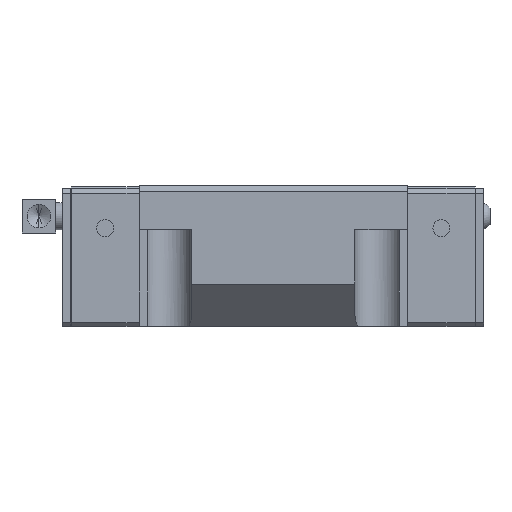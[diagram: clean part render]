
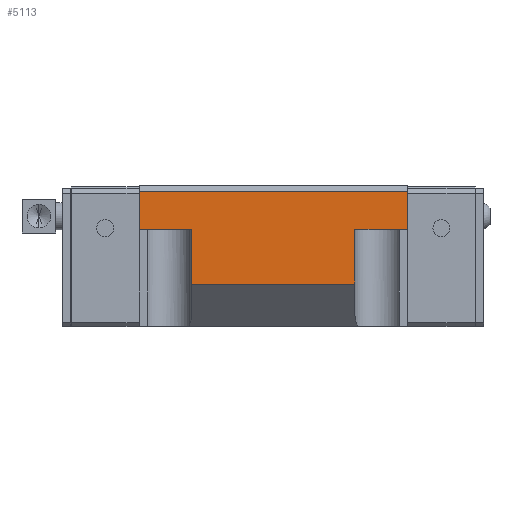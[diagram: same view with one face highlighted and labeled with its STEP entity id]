
A CAD part, top view. The second image highlights one B-rep face of the part: STEP entity #5113.
In plain terms, the highlighted planar face has unit normal (0, 0, 1).
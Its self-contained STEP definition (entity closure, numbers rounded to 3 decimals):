
#432 = VECTOR ( 'NONE', #3984, 1000. ) ;
#473 = CARTESIAN_POINT ( 'NONE',  ( 39.5, 4.8, 50. ) ) ;
#533 = VERTEX_POINT ( 'NONE', #3729 ) ;
#608 = LINE ( 'NONE', #3218, #8230 ) ;
#676 = ORIENTED_EDGE ( 'NONE', *, *, #4894, .F. ) ;
#956 = EDGE_CURVE ( 'NONE', #533, #7142, #3800, .T. ) ;
#1147 = VECTOR ( 'NONE', #5197, 1000. ) ;
#1440 = CARTESIAN_POINT ( 'NONE',  ( -39.5, 4.8, 50. ) ) ;
#1600 = CARTESIAN_POINT ( 'NONE',  ( -39.5, 16., 50. ) ) ;
#1770 = CARTESIAN_POINT ( 'NONE',  ( 24., -11.28, 50. ) ) ;
#1794 = DIRECTION ( 'NONE',  ( 0., -1., 0. ) ) ;
#1896 = VECTOR ( 'NONE', #6221, 1000. ) ;
#1970 = EDGE_CURVE ( 'NONE', #7933, #5928, #7350, .T. ) ;
#2071 = ORIENTED_EDGE ( 'NONE', *, *, #4107, .T. ) ;
#2137 = VECTOR ( 'NONE', #4206, 1000. ) ;
#2537 = CARTESIAN_POINT ( 'NONE',  ( 39.5, -11.28, 50. ) ) ;
#2705 = LINE ( 'NONE', #2537, #432 ) ;
#2873 = FACE_OUTER_BOUND ( 'NONE', #6827, .T. ) ;
#2880 = LINE ( 'NONE', #4806, #2137 ) ;
#3011 = VERTEX_POINT ( 'NONE', #5311 ) ;
#3218 = CARTESIAN_POINT ( 'NONE',  ( -39.5, -2.116, 50. ) ) ;
#3278 = VERTEX_POINT ( 'NONE', #5127 ) ;
#3372 = VECTOR ( 'NONE', #4767, 1000. ) ;
#3396 = CARTESIAN_POINT ( 'NONE',  ( -39.099, 4.8, 50. ) ) ;
#3471 = DIRECTION ( 'NONE',  ( 0., -1., 0. ) ) ;
#3515 = DIRECTION ( 'NONE',  ( 0., 0., 1. ) ) ;
#3552 = CARTESIAN_POINT ( 'NONE',  ( -39.5, 16.3, 50. ) ) ;
#3729 = CARTESIAN_POINT ( 'NONE',  ( 24., 4.8, 50. ) ) ;
#3800 = LINE ( 'NONE', #6426, #5088 ) ;
#3856 = ORIENTED_EDGE ( 'NONE', *, *, #956, .F. ) ;
#3984 = DIRECTION ( 'NONE',  ( -1., 0., 0. ) ) ;
#4106 = EDGE_CURVE ( 'NONE', #3278, #5928, #7433, .T. ) ;
#4107 = EDGE_CURVE ( 'NONE', #533, #7933, #2880, .T. ) ;
#4206 = DIRECTION ( 'NONE',  ( 1., 0., 0. ) ) ;
#4216 = CARTESIAN_POINT ( 'NONE',  ( -24., 4.8, 50. ) ) ;
#4767 = DIRECTION ( 'NONE',  ( 1., 0., 0. ) ) ;
#4806 = CARTESIAN_POINT ( 'NONE',  ( 24., 4.8, 50. ) ) ;
#4894 = EDGE_CURVE ( 'NONE', #7142, #3011, #2705, .T. ) ;
#5010 = EDGE_CURVE ( 'NONE', #6806, #3278, #608, .T. ) ;
#5088 = VECTOR ( 'NONE', #1794, 1000. ) ;
#5113 = ADVANCED_FACE ( 'NONE', ( #2873 ), #7424, .T. ) ;
#5127 = CARTESIAN_POINT ( 'NONE',  ( -39.5, 16., 50. ) ) ;
#5197 = DIRECTION ( 'NONE',  ( 1., 0., 0. ) ) ;
#5311 = CARTESIAN_POINT ( 'NONE',  ( -24., -11.28, 50. ) ) ;
#5377 = ORIENTED_EDGE ( 'NONE', *, *, #1970, .T. ) ;
#5422 = DIRECTION ( 'NONE',  ( 0., -1., 0. ) ) ;
#5550 = LINE ( 'NONE', #4216, #8391 ) ;
#5837 = DIRECTION ( 'NONE',  ( 0., 1., 0. ) ) ;
#5928 = VERTEX_POINT ( 'NONE', #8242 ) ;
#6039 = ORIENTED_EDGE ( 'NONE', *, *, #7292, .T. ) ;
#6221 = DIRECTION ( 'NONE',  ( 0., 1., 0. ) ) ;
#6426 = CARTESIAN_POINT ( 'NONE',  ( 24., 4.8, 50. ) ) ;
#6481 = ORIENTED_EDGE ( 'NONE', *, *, #4106, .F. ) ;
#6741 = CARTESIAN_POINT ( 'NONE',  ( -24., 4.8, 50. ) ) ;
#6793 = ORIENTED_EDGE ( 'NONE', *, *, #5010, .F. ) ;
#6806 = VERTEX_POINT ( 'NONE', #1440 ) ;
#6827 = EDGE_LOOP ( 'NONE', ( #6481, #6793, #6039, #8155, #676, #3856, #2071, #5377 ) ) ;
#6998 = AXIS2_PLACEMENT_3D ( 'NONE', #3552, #3515, #3471 ) ;
#7142 = VERTEX_POINT ( 'NONE', #1770 ) ;
#7292 = EDGE_CURVE ( 'NONE', #6806, #7435, #7909, .T. ) ;
#7350 = LINE ( 'NONE', #7990, #1896 ) ;
#7424 = PLANE ( 'NONE',  #6998 ) ;
#7433 = LINE ( 'NONE', #1600, #3372 ) ;
#7435 = VERTEX_POINT ( 'NONE', #6741 ) ;
#7909 = LINE ( 'NONE', #3396, #1147 ) ;
#7933 = VERTEX_POINT ( 'NONE', #473 ) ;
#7990 = CARTESIAN_POINT ( 'NONE',  ( 39.5, -2.116, 50. ) ) ;
#8155 = ORIENTED_EDGE ( 'NONE', *, *, #8196, .T. ) ;
#8196 = EDGE_CURVE ( 'NONE', #7435, #3011, #5550, .T. ) ;
#8230 = VECTOR ( 'NONE', #5837, 1000. ) ;
#8242 = CARTESIAN_POINT ( 'NONE',  ( 39.5, 16., 50. ) ) ;
#8391 = VECTOR ( 'NONE', #5422, 1000. ) ;
